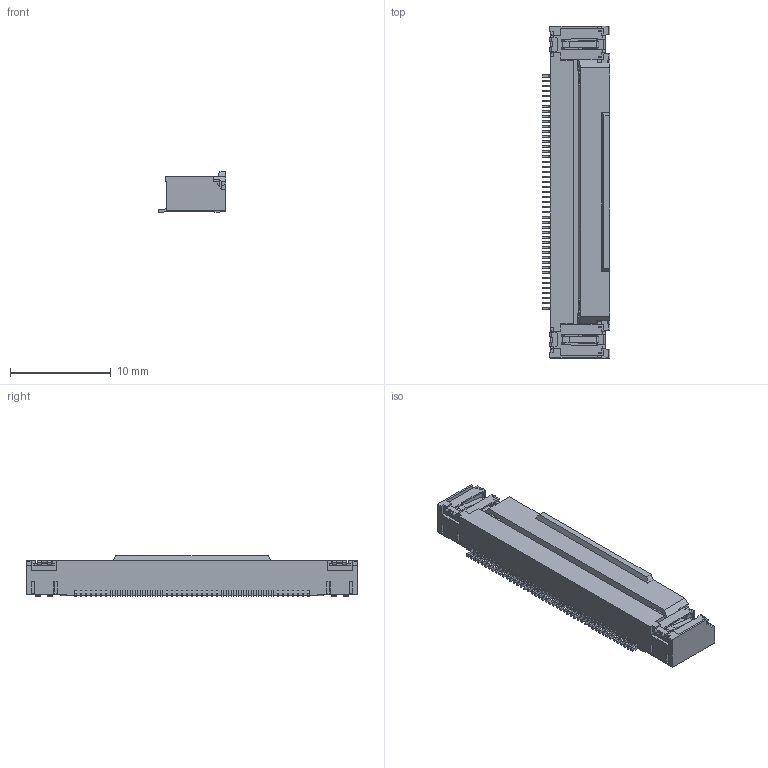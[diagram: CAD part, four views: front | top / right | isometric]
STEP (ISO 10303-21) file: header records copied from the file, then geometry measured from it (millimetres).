
FILE_DESCRIPTION (( 'STEP AP214' ), '1' );
FILE_NAME ('006810645001.STEP', '2022-06-15T04:20:39', ( '' ), ( '' ), 'SwSTEP 2.0', 'SolidWorks 2021', '' );
FILE_SCHEMA (( 'AUTOMOTIVE_DESIGN' ));
Length unit declared in the file: millimetre
Products named in the file (1): 006810645001
Bounding box: 6.7 x 32.9 x 4.04 mm (x, y, z)
Volume: 525.2 mm3; surface area: 1403.8 mm2
Topology: 1 solids, 1 shells, 1280 faces, 3543 edges, 2278 vertices
Faces by surface type: plane 884, cylinder 324, torus 48, bspline 24
Entity records: 41553 total; most frequent: CARTESIAN_POINT 9024, ORIENTED_EDGE 7086, DIRECTION 6305, EDGE_CURVE 3543, VECTOR 2727, LINE 2727, VERTEX_POINT 2278, AXIS2_PLACEMENT_3D 1789
